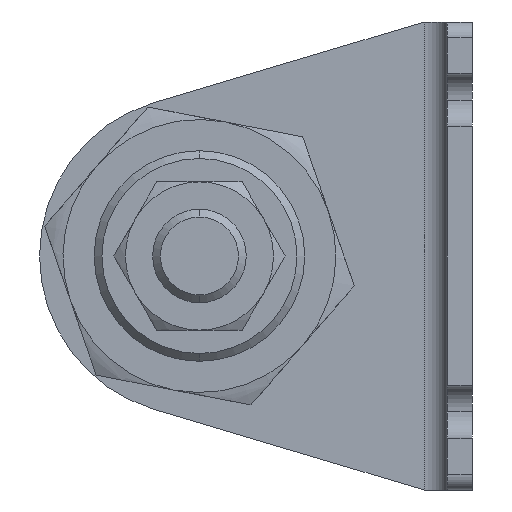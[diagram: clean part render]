
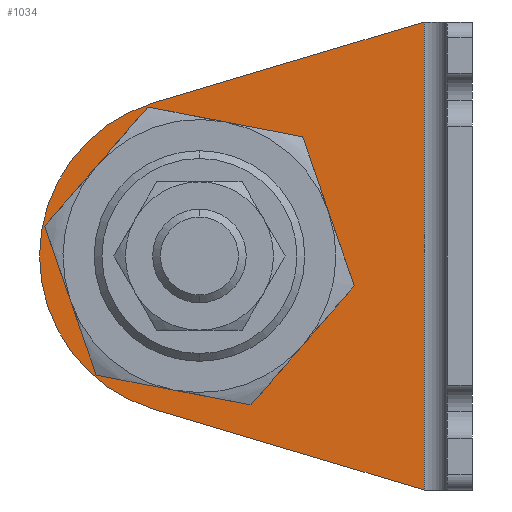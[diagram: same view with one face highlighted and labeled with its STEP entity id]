
A CAD part, left-side view. The second image highlights one B-rep face of the part: STEP entity #1034.
In plain terms, the highlighted planar face has unit normal (-1, 0, 0) as drawn and (1, 0, 0) by its records, which use the part's own axes.
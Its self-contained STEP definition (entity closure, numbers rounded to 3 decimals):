
#11 = CARTESIAN_POINT ( 'NONE',  ( 3.2, 3.446, -60.823 ) ) ;
#62 = DIRECTION ( 'NONE',  ( 1., 0., 0. ) ) ;
#66 = CARTESIAN_POINT ( 'NONE',  ( 3.2, 40.868, -49.642 ) ) ;
#76 = DIRECTION ( 'NONE',  ( 0., 1., 0. ) ) ;
#148 = EDGE_CURVE ( 'NONE', #3361, #3447, #2708, .T. ) ;
#165 = DIRECTION ( 'NONE',  ( 1., 0., 0. ) ) ;
#186 = FACE_BOUND ( 'NONE', #2897, .T. ) ;
#323 = DIRECTION ( 'NONE',  ( 0., 0.958, 0.286 ) ) ;
#328 = CARTESIAN_POINT ( 'NONE',  ( 3.2, 35., -30. ) ) ;
#470 = CARTESIAN_POINT ( 'NONE',  ( 3.2, 35., -30. ) ) ;
#527 = ORIENTED_EDGE ( 'NONE', *, *, #2518, .F. ) ;
#598 = EDGE_CURVE ( 'NONE', #1870, #4000, #3486, .T. ) ;
#636 = PLANE ( 'NONE',  #2870 ) ;
#682 = CIRCLE ( 'NONE', #2731, 13.5 ) ;
#709 = VERTEX_POINT ( 'NONE', #3164 ) ;
#855 = VERTEX_POINT ( 'NONE', #3436 ) ;
#866 = DIRECTION ( 'NONE',  ( 0., 1., 0. ) ) ;
#902 = FACE_OUTER_BOUND ( 'NONE', #3435, .T. ) ;
#1034 = ADVANCED_FACE ( 'NONE', ( #186, #902 ), #636, .T. ) ;
#1065 = CARTESIAN_POINT ( 'NONE',  ( 3.2, 40.868, -10.358 ) ) ;
#1124 = DIRECTION ( 'NONE',  ( 0., 1., 0. ) ) ;
#1231 = CARTESIAN_POINT ( 'NONE',  ( 3.2, 3.2, -60. ) ) ;
#1536 = VECTOR ( 'NONE', #323, 1000. ) ;
#1590 = AXIS2_PLACEMENT_3D ( 'NONE', #3629, #2945, #2919 ) ;
#1799 = AXIS2_PLACEMENT_3D ( 'NONE', #328, #62, #866 ) ;
#1851 = AXIS2_PLACEMENT_3D ( 'NONE', #3012, #2866, #76 ) ;
#1870 = VERTEX_POINT ( 'NONE', #3928 ) ;
#2159 = EDGE_CURVE ( 'NONE', #855, #3447, #2306, .T. ) ;
#2224 = ORIENTED_EDGE ( 'NONE', *, *, #3355, .T. ) ;
#2263 = EDGE_CURVE ( 'NONE', #3361, #1870, #3748, .T. ) ;
#2306 = CIRCLE ( 'NONE', #1851, 20.5 ) ;
#2319 = CARTESIAN_POINT ( 'NONE',  ( 3.2, 6.2, -60. ) ) ;
#2325 = ORIENTED_EDGE ( 'NONE', *, *, #2263, .T. ) ;
#2348 = DIRECTION ( 'NONE',  ( 0., 0., -1. ) ) ;
#2459 = VECTOR ( 'NONE', #2874, 1000. ) ;
#2518 = EDGE_CURVE ( 'NONE', #709, #2982, #682, .T. ) ;
#2613 = CIRCLE ( 'NONE', #1799, 20.5 ) ;
#2672 = ORIENTED_EDGE ( 'NONE', *, *, #148, .F. ) ;
#2708 = LINE ( 'NONE', #3253, #2459 ) ;
#2731 = AXIS2_PLACEMENT_3D ( 'NONE', #470, #165, #1124 ) ;
#2794 = ORIENTED_EDGE ( 'NONE', *, *, #3789, .F. ) ;
#2866 = DIRECTION ( 'NONE',  ( 1., 0., 0. ) ) ;
#2870 = AXIS2_PLACEMENT_3D ( 'NONE', #1231, #3892, #2940 ) ;
#2874 = DIRECTION ( 'NONE',  ( 0., 0.958, -0.286 ) ) ;
#2897 = EDGE_LOOP ( 'NONE', ( #527, #2794 ) ) ;
#2919 = DIRECTION ( 'NONE',  ( 0., 1., 0. ) ) ;
#2940 = DIRECTION ( 'NONE',  ( 0., 1., 0. ) ) ;
#2945 = DIRECTION ( 'NONE',  ( 1., 0., 0. ) ) ;
#2982 = VERTEX_POINT ( 'NONE', #3317 ) ;
#3012 = CARTESIAN_POINT ( 'NONE',  ( 3.2, 35., -30. ) ) ;
#3113 = VECTOR ( 'NONE', #2348, 1000. ) ;
#3164 = CARTESIAN_POINT ( 'NONE',  ( 3.2, 48.5, -30. ) ) ;
#3253 = CARTESIAN_POINT ( 'NONE',  ( 3.2, 19.903, -4.094 ) ) ;
#3317 = CARTESIAN_POINT ( 'NONE',  ( 3.2, 21.5, -30. ) ) ;
#3355 = EDGE_CURVE ( 'NONE', #4000, #855, #2613, .T. ) ;
#3361 = VERTEX_POINT ( 'NONE', #4271 ) ;
#3382 = CIRCLE ( 'NONE', #1590, 13.5 ) ;
#3435 = EDGE_LOOP ( 'NONE', ( #4166, #2224, #3450, #2672, #2325 ) ) ;
#3436 = CARTESIAN_POINT ( 'NONE',  ( 3.2, 55.5, -30. ) ) ;
#3447 = VERTEX_POINT ( 'NONE', #1065 ) ;
#3450 = ORIENTED_EDGE ( 'NONE', *, *, #2159, .T. ) ;
#3486 = LINE ( 'NONE', #11, #1536 ) ;
#3629 = CARTESIAN_POINT ( 'NONE',  ( 3.2, 35., -30. ) ) ;
#3748 = LINE ( 'NONE', #2319, #3113 ) ;
#3789 = EDGE_CURVE ( 'NONE', #2982, #709, #3382, .T. ) ;
#3892 = DIRECTION ( 'NONE',  ( 1., 0., 0. ) ) ;
#3928 = CARTESIAN_POINT ( 'NONE',  ( 3.2, 6.2, -60. ) ) ;
#4000 = VERTEX_POINT ( 'NONE', #66 ) ;
#4166 = ORIENTED_EDGE ( 'NONE', *, *, #598, .T. ) ;
#4271 = CARTESIAN_POINT ( 'NONE',  ( 3.2, 6.2, 0. ) ) ;
